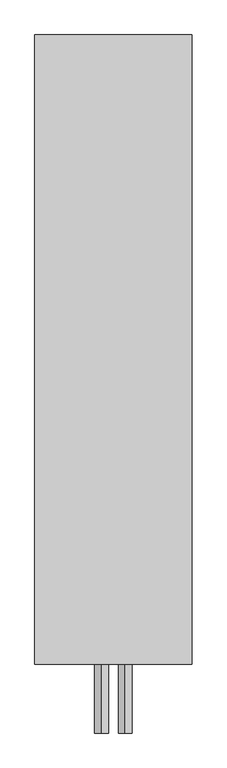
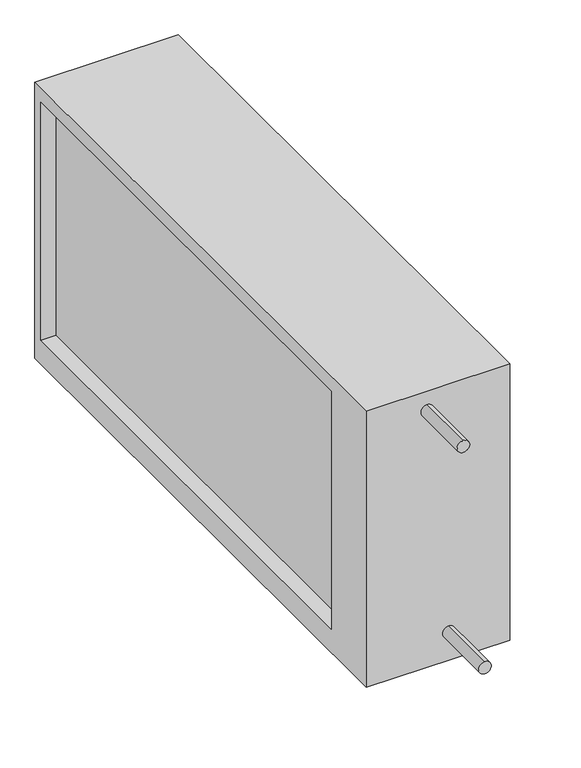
"""IFC4 building model written with IfcOpenShell, lengths in millimetres: proxy geometry, СВ_ВоздухоохладительВодяной_КанальныйПрямоугольный_200-1000_SPC-W : SPC-W-1000x500-R."""

from ifc_helpers import new_model, si_unit, point, frame, frame_2d, origin, place, context, project, spatial, polyline, circle_curve, trimmed, segment, composite_curve, outline, extrude, source, transform, mapped, element, save


def mechanical_equipment_1b1addff(model_context):
    return source(origin(), model_context, "Body", "SweptSolid", [
        extrude(outline(polyline([(-620.0, -300.0), (-620.0, 280.0), (520.0, 280.0), (520.0, -300.0), (-620.0, -300.0)]), holes=[polyline([(-500.0, 250.0), (-500.0, -250.0), (500.0, -250.0), (500.0, 250.0), (-500.0, 250.0)])]), frame((-142.5, 0.0, 0.0), z_axis=(1.0, 0.0, 0.0), x_axis=(0.0, 1.0, 0.0)), (0.0, 0.0, 1.0), 285.0),
        extrude(outline(composite_curve([segment(trimmed(circle_curve(frame_2d((-240.0, 21.5)), 12.5), [point((-227.5, 21.5))], [point((-252.5, 21.5))], False, "CARTESIAN"), True, "CONTINUOUS"), segment(trimmed(circle_curve(frame_2d((-240.0, 21.5)), 12.5), [point((-252.5, 21.5))], [point((-227.5, 21.5))], False, "CARTESIAN"), True, "CONTINUOUS")], self_intersect=False)), frame((0.0, -745.0, 0.0), z_axis=(0.0, 1.0, 0.0), x_axis=(0.0, 0.0, 1.0)), (0.0, 0.0, 1.0), 125.0),
        extrude(outline(composite_curve([segment(trimmed(circle_curve(frame_2d((240.0, -21.5)), 12.5), [point((252.5, -21.5))], [point((227.5, -21.5))], False, "CARTESIAN"), True, "CONTINUOUS"), segment(trimmed(circle_curve(frame_2d((240.0, -21.5)), 12.5), [point((227.5, -21.5))], [point((252.5, -21.5))], False, "CARTESIAN"), True, "CONTINUOUS")], self_intersect=False)), frame((0.0, -745.0, 0.0), z_axis=(0.0, 1.0, 0.0), x_axis=(0.0, 0.0, 1.0)), (0.0, 0.0, 1.0), 125.0),
        extrude(outline(composite_curve([segment(trimmed(circle_curve(frame_2d((0.0, -580.0)), 11.0), [point((-11.0, -580.0))], [point((11.0, -580.0))], False, "CARTESIAN"), True, "CONTINUOUS"), segment(trimmed(circle_curve(frame_2d((0.0, -580.0)), 11.0), [point((11.0, -580.0))], [point((-11.0, -580.0))], False, "CARTESIAN"), True, "CONTINUOUS")], self_intersect=False)), frame((0.0, 0.0, -320.0), z_axis=(0.0, 0.0, 1.0), x_axis=(1.0, 0.0, 0.0)), (0.0, 0.0, 1.0), 20.0),
        extrude(outline(polyline([(112.5, 500.0), (112.5, -500.0), (-112.5, -500.0), (-112.5, 500.0), (112.5, 500.0)])), frame((0.0, 0.0, -250.0), z_axis=(0.0, 0.0, 1.0), x_axis=(1.0, 0.0, 0.0)), (0.0, 0.0, 1.0), 500.0),
    ])


if __name__ == "__main__":
    model = new_model("IFC4")
    model_context = context("Model", 3, world=origin())
    ifc_project = project(units=[si_unit("LENGTHUNIT", "METRE", prefix="MILLI")], contexts=[model_context])
    site = spatial("IfcSite", under=ifc_project)
    building = spatial("IfcBuilding", under=site)
    placement = place(None, origin())
    mechanical_equipment_shape = mechanical_equipment_1b1addff(model_context)
    element("IfcBuildingElementProxy", 1, Name="СВ_ВоздухоохладительВодяной_КанальныйПрямоугольный_200-1000_SPC-W : SPC-W-1000x500-R", ObjectType="СВ_ВоздухоохладительВодяной_КанальныйПрямоугольный_200-1000_SPC-W : SPC-W-1000x500-R", at=placement, inside=building, context=model_context, shape_type="MappedRepresentation", body=[
        mapped(mechanical_equipment_shape, transform((0.0, 0.0, 0.0), x_axis=(1.0, 0.0, 0.0), y_axis=(0.0, 1.0, 0.0), z_axis=(0.0, 0.0, 1.0))),
    ])
    save(model, "model.ifc")
